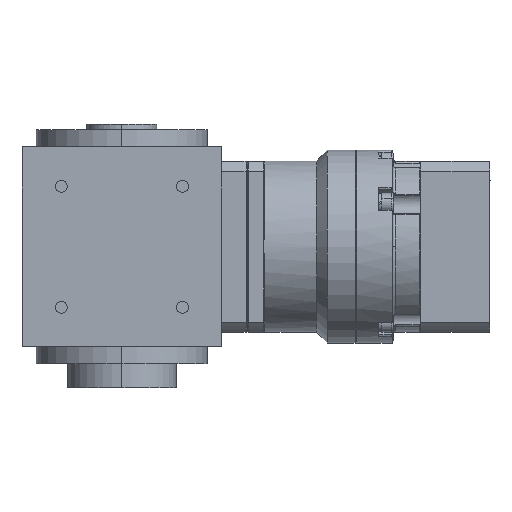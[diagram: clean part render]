
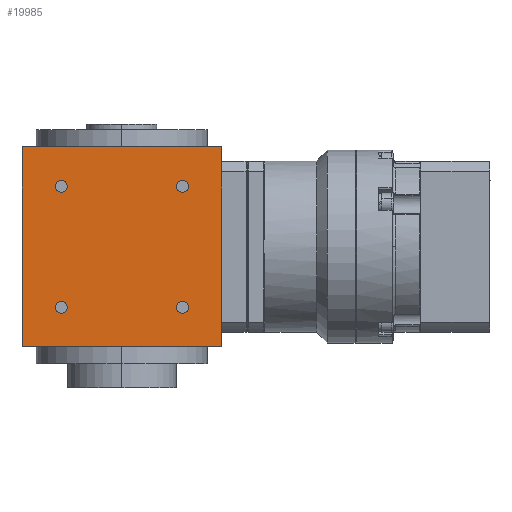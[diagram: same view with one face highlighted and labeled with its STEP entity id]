
A CAD part, left-side view. The second image highlights one B-rep face of the part: STEP entity #19985.
In plain terms, the highlighted planar face has unit normal (-1, 0, 0).
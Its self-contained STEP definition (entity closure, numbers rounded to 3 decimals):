
#9 = CIRCLE ( 'NONE', #19306, 2.1 ) ;
#66 = CARTESIAN_POINT ( 'NONE',  ( -35., -21.213, -21.213 ) ) ;
#107 = AXIS2_PLACEMENT_3D ( 'NONE', #14242, #19636, #4855 ) ;
#435 = DIRECTION ( 'NONE',  ( 0., -1., 0. ) ) ;
#916 = EDGE_CURVE ( 'NONE', #22859, #2720, #9, .T. ) ;
#1174 = DIRECTION ( 'NONE',  ( 0., -1., 0. ) ) ;
#1302 = CARTESIAN_POINT ( 'NONE',  ( -35., -23.313, 21.213 ) ) ;
#1777 = CARTESIAN_POINT ( 'NONE',  ( -35., 19.113, 21.213 ) ) ;
#1898 = DIRECTION ( 'NONE',  ( 1., 0., 0. ) ) ;
#2046 = AXIS2_PLACEMENT_3D ( 'NONE', #26992, #19969, #30016 ) ;
#2430 = EDGE_CURVE ( 'NONE', #3478, #6683, #6254, .T. ) ;
#2472 = DIRECTION ( 'NONE',  ( 0., -1., 0. ) ) ;
#2559 = DIRECTION ( 'NONE',  ( 0., 0., -1. ) ) ;
#2720 = VERTEX_POINT ( 'NONE', #1777 ) ;
#3278 = ORIENTED_EDGE ( 'NONE', *, *, #16197, .T. ) ;
#3478 = VERTEX_POINT ( 'NONE', #8518 ) ;
#3565 = FACE_BOUND ( 'NONE', #18551, .T. ) ;
#3692 = VECTOR ( 'NONE', #23832, 1000. ) ;
#4855 = DIRECTION ( 'NONE',  ( 0., -1., 0. ) ) ;
#4909 = EDGE_LOOP ( 'NONE', ( #22831, #29891, #20120, #3278 ) ) ;
#5107 = CARTESIAN_POINT ( 'NONE',  ( -35., -35., -35. ) ) ;
#5521 = LINE ( 'NONE', #15712, #20775 ) ;
#5917 = CIRCLE ( 'NONE', #30311, 2.1 ) ;
#6167 = EDGE_CURVE ( 'NONE', #23010, #26464, #5917, .T. ) ;
#6254 = CIRCLE ( 'NONE', #24013, 2.1 ) ;
#6297 = DIRECTION ( 'NONE',  ( 1., 0., 0. ) ) ;
#6410 = FACE_OUTER_BOUND ( 'NONE', #4909, .T. ) ;
#6618 = CARTESIAN_POINT ( 'NONE',  ( -35., 21.213, 21.213 ) ) ;
#6663 = AXIS2_PLACEMENT_3D ( 'NONE', #15820, #22976, #1174 ) ;
#6683 = VERTEX_POINT ( 'NONE', #26134 ) ;
#7065 = CARTESIAN_POINT ( 'NONE',  ( -35., -19.113, 21.213 ) ) ;
#7077 = ORIENTED_EDGE ( 'NONE', *, *, #27778, .T. ) ;
#7160 = DIRECTION ( 'NONE',  ( 0., 0., 1. ) ) ;
#7895 = FACE_BOUND ( 'NONE', #15713, .T. ) ;
#8518 = CARTESIAN_POINT ( 'NONE',  ( -35., 23.313, -21.213 ) ) ;
#8856 = CIRCLE ( 'NONE', #16976, 2.1 ) ;
#10179 = CIRCLE ( 'NONE', #2046, 2.1 ) ;
#12565 = VECTOR ( 'NONE', #2559, 1000. ) ;
#12690 = ORIENTED_EDGE ( 'NONE', *, *, #26237, .T. ) ;
#13203 = AXIS2_PLACEMENT_3D ( 'NONE', #16223, #1898, #25913 ) ;
#13257 = CARTESIAN_POINT ( 'NONE',  ( -35., 23.313, 21.213 ) ) ;
#13372 = ORIENTED_EDGE ( 'NONE', *, *, #22227, .T. ) ;
#13968 = EDGE_CURVE ( 'NONE', #28161, #19811, #5521, .T. ) ;
#14104 = EDGE_LOOP ( 'NONE', ( #25446, #7077 ) ) ;
#14124 = CARTESIAN_POINT ( 'NONE',  ( -35., 0., -35. ) ) ;
#14242 = CARTESIAN_POINT ( 'NONE',  ( -35., 21.213, 21.213 ) ) ;
#15365 = CIRCLE ( 'NONE', #107, 2.1 ) ;
#15712 = CARTESIAN_POINT ( 'NONE',  ( -35., 0., 35. ) ) ;
#15713 = EDGE_LOOP ( 'NONE', ( #13372, #23038 ) ) ;
#15820 = CARTESIAN_POINT ( 'NONE',  ( -35., 35., -35. ) ) ;
#16087 = AXIS2_PLACEMENT_3D ( 'NONE', #66, #19461, #29174 ) ;
#16197 = EDGE_CURVE ( 'NONE', #22759, #23196, #26055, .T. ) ;
#16223 = CARTESIAN_POINT ( 'NONE',  ( -35., -21.213, -21.213 ) ) ;
#16454 = ORIENTED_EDGE ( 'NONE', *, *, #2430, .T. ) ;
#16976 = AXIS2_PLACEMENT_3D ( 'NONE', #22394, #22229, #435 ) ;
#17196 = LINE ( 'NONE', #26412, #22654 ) ;
#18152 = ORIENTED_EDGE ( 'NONE', *, *, #6167, .T. ) ;
#18499 = FACE_BOUND ( 'NONE', #22113, .T. ) ;
#18551 = EDGE_LOOP ( 'NONE', ( #18152, #26642 ) ) ;
#18837 = VERTEX_POINT ( 'NONE', #20715 ) ;
#19306 = AXIS2_PLACEMENT_3D ( 'NONE', #6618, #6297, #20616 ) ;
#19461 = DIRECTION ( 'NONE',  ( 1., 0., 0. ) ) ;
#19636 = DIRECTION ( 'NONE',  ( 1., 0., 0. ) ) ;
#19766 = DIRECTION ( 'NONE',  ( 0., -1., 0. ) ) ;
#19811 = VERTEX_POINT ( 'NONE', #21581 ) ;
#19969 = DIRECTION ( 'NONE',  ( 1., 0., 0. ) ) ;
#19985 = ADVANCED_FACE ( 'NONE', ( #7895, #3565, #22383, #18499, #6410 ), #27313, .T. ) ;
#20120 = ORIENTED_EDGE ( 'NONE', *, *, #23068, .F. ) ;
#20616 = DIRECTION ( 'NONE',  ( 0., -1., 0. ) ) ;
#20715 = CARTESIAN_POINT ( 'NONE',  ( -35., -19.113, -21.213 ) ) ;
#20775 = VECTOR ( 'NONE', #30026, 1000. ) ;
#21581 = CARTESIAN_POINT ( 'NONE',  ( -35., -35., 35. ) ) ;
#22006 = CARTESIAN_POINT ( 'NONE',  ( -35., 21.213, -21.213 ) ) ;
#22113 = EDGE_LOOP ( 'NONE', ( #12690, #16454 ) ) ;
#22227 = EDGE_CURVE ( 'NONE', #2720, #22859, #15365, .T. ) ;
#22229 = DIRECTION ( 'NONE',  ( 1., 0., 0. ) ) ;
#22383 = FACE_BOUND ( 'NONE', #14104, .T. ) ;
#22394 = CARTESIAN_POINT ( 'NONE',  ( -35., -21.213, 21.213 ) ) ;
#22654 = VECTOR ( 'NONE', #7160, 1000. ) ;
#22759 = VERTEX_POINT ( 'NONE', #26931 ) ;
#22831 = ORIENTED_EDGE ( 'NONE', *, *, #24422, .F. ) ;
#22859 = VERTEX_POINT ( 'NONE', #13257 ) ;
#22976 = DIRECTION ( 'NONE',  ( -1., 0., 0. ) ) ;
#23010 = VERTEX_POINT ( 'NONE', #1302 ) ;
#23038 = ORIENTED_EDGE ( 'NONE', *, *, #916, .T. ) ;
#23068 = EDGE_CURVE ( 'NONE', #22759, #28161, #17196, .T. ) ;
#23196 = VERTEX_POINT ( 'NONE', #29750 ) ;
#23832 = DIRECTION ( 'NONE',  ( 0., -1., 0. ) ) ;
#24013 = AXIS2_PLACEMENT_3D ( 'NONE', #22006, #27263, #19766 ) ;
#24343 = LINE ( 'NONE', #5107, #12565 ) ;
#24422 = EDGE_CURVE ( 'NONE', #19811, #23196, #24343, .T. ) ;
#25438 = EDGE_CURVE ( 'NONE', #30335, #18837, #30976, .T. ) ;
#25446 = ORIENTED_EDGE ( 'NONE', *, *, #25438, .T. ) ;
#25913 = DIRECTION ( 'NONE',  ( 0., -1., 0. ) ) ;
#26055 = LINE ( 'NONE', #14124, #3692 ) ;
#26134 = CARTESIAN_POINT ( 'NONE',  ( -35., 19.113, -21.213 ) ) ;
#26174 = CARTESIAN_POINT ( 'NONE',  ( -35., -21.213, 21.213 ) ) ;
#26237 = EDGE_CURVE ( 'NONE', #6683, #3478, #10179, .T. ) ;
#26412 = CARTESIAN_POINT ( 'NONE',  ( -35., 35., -35. ) ) ;
#26464 = VERTEX_POINT ( 'NONE', #7065 ) ;
#26642 = ORIENTED_EDGE ( 'NONE', *, *, #30842, .T. ) ;
#26931 = CARTESIAN_POINT ( 'NONE',  ( -35., 35., -35. ) ) ;
#26992 = CARTESIAN_POINT ( 'NONE',  ( -35., 21.213, -21.213 ) ) ;
#27258 = CIRCLE ( 'NONE', #16087, 2.1 ) ;
#27263 = DIRECTION ( 'NONE',  ( 1., 0., 0. ) ) ;
#27313 = PLANE ( 'NONE',  #6663 ) ;
#27778 = EDGE_CURVE ( 'NONE', #18837, #30335, #27258, .T. ) ;
#28161 = VERTEX_POINT ( 'NONE', #29777 ) ;
#28336 = CARTESIAN_POINT ( 'NONE',  ( -35., -23.313, -21.213 ) ) ;
#29174 = DIRECTION ( 'NONE',  ( 0., -1., 0. ) ) ;
#29750 = CARTESIAN_POINT ( 'NONE',  ( -35., -35., -35. ) ) ;
#29777 = CARTESIAN_POINT ( 'NONE',  ( -35., 35., 35. ) ) ;
#29891 = ORIENTED_EDGE ( 'NONE', *, *, #13968, .F. ) ;
#30016 = DIRECTION ( 'NONE',  ( 0., -1., 0. ) ) ;
#30026 = DIRECTION ( 'NONE',  ( 0., -1., 0. ) ) ;
#30311 = AXIS2_PLACEMENT_3D ( 'NONE', #26174, #31122, #2472 ) ;
#30335 = VERTEX_POINT ( 'NONE', #28336 ) ;
#30842 = EDGE_CURVE ( 'NONE', #26464, #23010, #8856, .T. ) ;
#30976 = CIRCLE ( 'NONE', #13203, 2.1 ) ;
#31122 = DIRECTION ( 'NONE',  ( 1., 0., 0. ) ) ;
